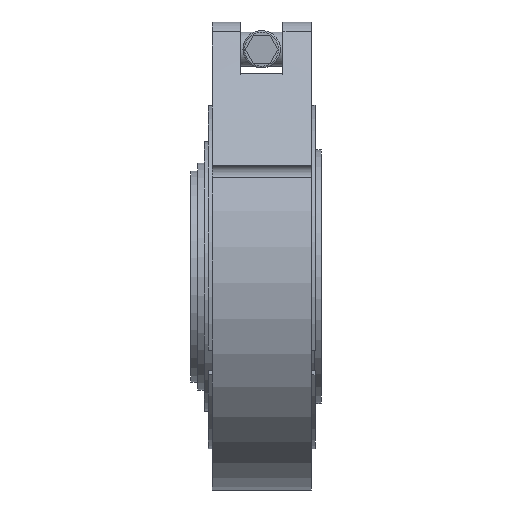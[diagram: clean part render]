
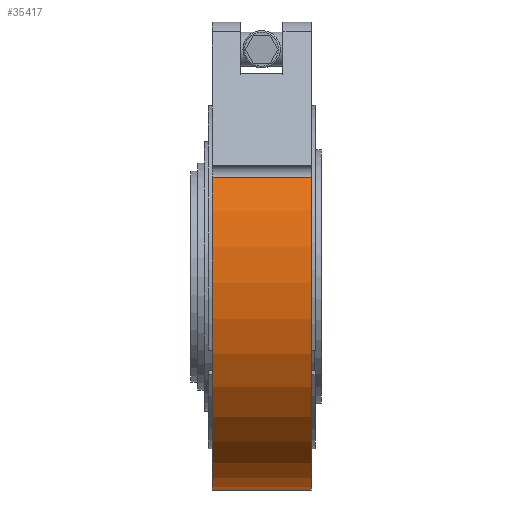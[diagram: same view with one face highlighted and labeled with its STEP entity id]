
A CAD part, front view. The second image highlights one B-rep face of the part: STEP entity #35417.
In plain terms, the highlighted cylindrical face has radius 47.714 mm (diameter 95.428 mm), a partial arc.
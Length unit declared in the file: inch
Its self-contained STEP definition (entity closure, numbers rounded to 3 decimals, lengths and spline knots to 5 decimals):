
#1625 = CARTESIAN_POINT ( 'NONE',  ( -1.4127, -1.66384, -0.87201 ) ) ;
#2055 = CYLINDRICAL_SURFACE ( 'NONE', #36715, 1.8785 ) ;
#2115 = CARTESIAN_POINT ( 'NONE',  ( 0.4375, 1.66384, -0.87201 ) ) ;
#2665 = CARTESIAN_POINT ( 'NONE',  ( -0.4375, -1.66384, -0.87201 ) ) ;
#5610 = FACE_OUTER_BOUND ( 'NONE', #38733, .T. ) ;
#6785 = LINE ( 'NONE', #23687, #43871 ) ;
#9099 = EDGE_CURVE ( 'NONE', #20821, #19099, #38551, .T. ) ;
#10011 = VERTEX_POINT ( 'NONE', #39800 ) ;
#15170 = DIRECTION ( 'NONE',  ( 1., 0., 0. ) ) ;
#18655 = CIRCLE ( 'NONE', #43510, 1.8785 ) ;
#19099 = VERTEX_POINT ( 'NONE', #2115 ) ;
#19202 = ORIENTED_EDGE ( 'NONE', *, *, #9099, .T. ) ;
#20821 = VERTEX_POINT ( 'NONE', #22107 ) ;
#22107 = CARTESIAN_POINT ( 'NONE',  ( 0.4375, -1.66384, -0.87201 ) ) ;
#22340 = ORIENTED_EDGE ( 'NONE', *, *, #25315, .T. ) ;
#23687 = CARTESIAN_POINT ( 'NONE',  ( -1.4127, 1.66384, -0.87201 ) ) ;
#25315 = EDGE_CURVE ( 'NONE', #19099, #10011, #6785, .T. ) ;
#25676 = ORIENTED_EDGE ( 'NONE', *, *, #40538, .F. ) ;
#26134 = DIRECTION ( 'NONE',  ( -1., 0., 0. ) ) ;
#27113 = VERTEX_POINT ( 'NONE', #2665 ) ;
#28119 = EDGE_CURVE ( 'NONE', #27113, #20821, #32075, .T. ) ;
#28493 = DIRECTION ( 'NONE',  ( -1., 0., 0. ) ) ;
#31832 = CARTESIAN_POINT ( 'NONE',  ( -0.4375, 0., 0. ) ) ;
#32075 = LINE ( 'NONE', #1625, #41896 ) ;
#32715 = DIRECTION ( 'NONE',  ( -1., 0., 0. ) ) ;
#33892 = CARTESIAN_POINT ( 'NONE',  ( 0.4375, 0., 0. ) ) ;
#34958 = DIRECTION ( 'NONE',  ( 0., 0., 1. ) ) ;
#35412 = DIRECTION ( 'NONE',  ( 0., 0., 1. ) ) ;
#35417 = ADVANCED_FACE ( 'NONE', ( #5610 ), #2055, .T. ) ;
#36715 = AXIS2_PLACEMENT_3D ( 'NONE', #38742, #32715, #35412 ) ;
#38551 = CIRCLE ( 'NONE', #42136, 1.8785 ) ;
#38733 = EDGE_LOOP ( 'NONE', ( #25676, #43663, #19202, #22340 ) ) ;
#38742 = CARTESIAN_POINT ( 'NONE',  ( -1.4127, 0., 0. ) ) ;
#39800 = CARTESIAN_POINT ( 'NONE',  ( -0.4375, 1.66384, -0.87201 ) ) ;
#40538 = EDGE_CURVE ( 'NONE', #27113, #10011, #18655, .T. ) ;
#40562 = DIRECTION ( 'NONE',  ( 0., 0., 1. ) ) ;
#40777 = DIRECTION ( 'NONE',  ( -1., 0., 0. ) ) ;
#41896 = VECTOR ( 'NONE', #15170, 39.37008 ) ;
#42136 = AXIS2_PLACEMENT_3D ( 'NONE', #33892, #40777, #40562 ) ;
#43510 = AXIS2_PLACEMENT_3D ( 'NONE', #31832, #28493, #34958 ) ;
#43663 = ORIENTED_EDGE ( 'NONE', *, *, #28119, .T. ) ;
#43871 = VECTOR ( 'NONE', #26134, 39.37008 ) ;
